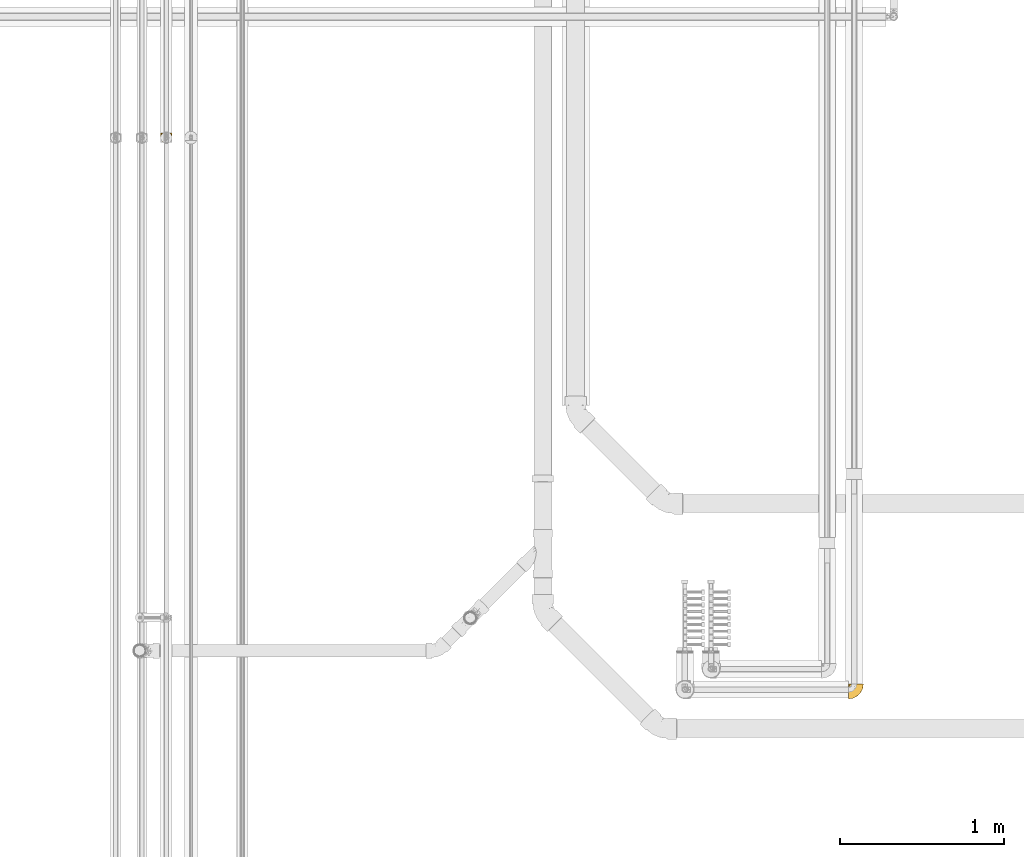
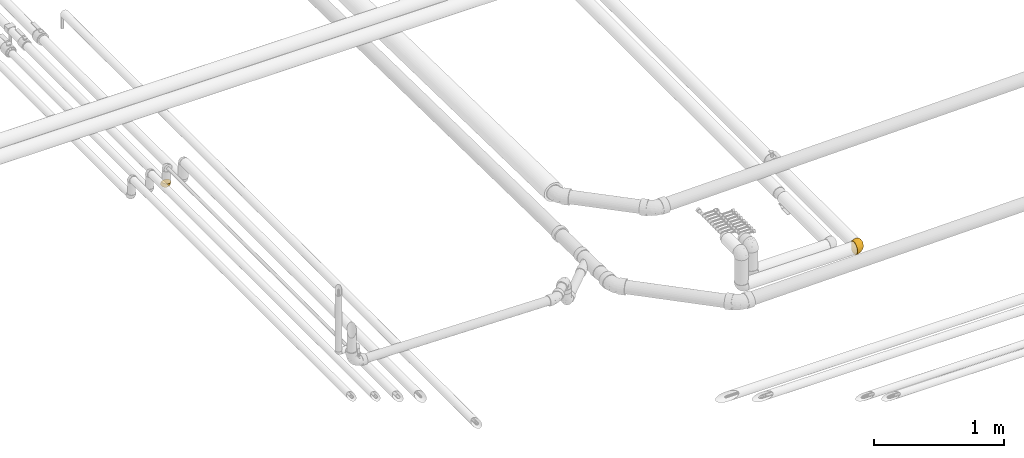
# One storey, part 18 of 83: 2 coverings.
"""IFC2X3 building model written with IfcOpenShell, lengths in millimetres."""

from ifc_helpers import new_model, entity, si_unit, converted_unit, derived_unit, direction, frame, origin_with_axes, place, context, subcontext, project, spatial, open_shell, surface_model, source, transform, mapped, element, save


model = new_model("IFC2X3")

# Units and contexts
model_context = context("Model", 3, precision=0.01, world=frame((0.0, 4.29681676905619e-09, 0.0)), true_north=direction((4.01073788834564e-13, 1.0)))
plan_context = context("Plan", 3, precision=0.01, world=frame((0.0, 4.29681676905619e-09, 0.0)), true_north=direction((4.01073788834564e-13, 1.0)))
body_context = subcontext(model_context, "Body", "Model", "MODEL_VIEW")
ifc_project = project(units=[converted_unit("PLANEANGLEUNIT", "DEGREE", entity("IfcPositiveLengthMeasure", 0.0174532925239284), si_unit("PLANEANGLEUNIT", "RADIAN"), dimensions=[0, 0, 0, 0, 0, 0, 0]), si_unit("AREAUNIT", "SQUARE_METRE"), si_unit("LENGTHUNIT", "METRE", prefix="MILLI"), si_unit("MASSUNIT", "GRAM", prefix="KILO"), si_unit("POWERUNIT", "WATT"), si_unit("PRESSUREUNIT", "PASCAL"), si_unit("FORCEUNIT", "NEWTON", prefix="KILO"), si_unit("ELECTRICVOLTAGEUNIT", "VOLT"), si_unit("ELECTRICCURRENTUNIT", "AMPERE"), si_unit("THERMODYNAMICTEMPERATUREUNIT", "DEGREE_CELSIUS"), si_unit("TIMEUNIT", "SECOND"), si_unit("VOLUMEUNIT", "CUBIC_METRE"), derived_unit("LINEARVELOCITYUNIT", [(si_unit("LENGTHUNIT", "METRE"), 1), (si_unit("TIMEUNIT", "SECOND"), -1)]), derived_unit("VOLUMETRICFLOWRATEUNIT", [(si_unit("VOLUMEUNIT", "CUBIC_METRE"), 1), (si_unit("TIMEUNIT", "SECOND"), -1)]), derived_unit("THERMALTRANSMITTANCEUNIT", [(si_unit("POWERUNIT", "WATT"), 1), (si_unit("THERMODYNAMICTEMPERATUREUNIT", "KELVIN"), -1), (si_unit("AREAUNIT", "SQUARE_METRE"), -1)]), derived_unit("SOUNDPRESSUREUNIT", [(si_unit("PRESSUREUNIT", "PASCAL"), 1)])], contexts=[model_context, plan_context])

# Site, building, storey
site_placement = place(None, frame((0.0, -4.29681676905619e-09, 0.0), z_axis=(0.0, 0.0, 1.0), x_axis=(1.0, 0.0, 0.0)))
site = spatial("IfcSite", under=ifc_project, at=site_placement, Name="ENGM", CompositionType="ELEMENT")
building_placement = place(site_placement, frame((0.0, 4.29681676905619e-09, 0.0), z_axis=(0.0, 0.0, 1.0), x_axis=(1.0, 0.0, 0.0)))
building = spatial("IfcBuilding", under=site, at=building_placement, Name="TI", CompositionType="ELEMENT")
storey_placement = place(building_placement, frame((0.0, 0.0, 204000.0), z_axis=(0.0, 0.0, 1.0), x_axis=(1.0, 0.0, 0.0)))
storey = spatial("IfcBuildingStorey", under=building, at=storey_placement, Name="Nivå D", CompositionType="ELEMENT", Elevation=204000.0)

# Coverings
shared_shape_1 = source(origin_with_axes(), body_context, "Body", "SurfaceModel", [
    surface_model("IfcShellBasedSurfaceModel", [(-33.34059, 33.8, 46.10873), (-23.05704, 33.8, 52.01906), (-11.775, 33.8, 55.6683), (44.48008, 33.8, -35.48425), (55.47253, 33.8, -12.66523), (51.26203, 33.8, -24.69442), (-23.07704, 33.8, -52.01019), (-33.34059, 33.8, -46.10873), (-11.7964, 33.8, -55.66377), (12.64674, 33.8, -55.47675), (24.67561, 33.8, -51.27108), (0.0, 33.8, -56.9), (-33.8, 23.06476, 52.01564), (-33.8, 33.34059, 46.10873), (-33.8, 11.78813, 55.66552), (-33.8, -14.7268, -54.96118), (-33.8, -28.45, -49.27684), (-33.8, -40.23438, -40.23438), (-33.8, -49.27684, -28.45), (-33.8, -54.96118, -14.7268), (-33.8, -40.23438, 40.23438), (-33.8, -28.45, 49.27684), (-33.8, -54.96118, 14.7268), (-33.8, -49.27684, 28.45), (-33.8, -56.9, 0.0), (-33.8, 33.34059, -46.10873), (-33.47515, 33.47515, 46.10873), (-33.47515, 33.47515, -46.10873), (-32.08364, 25.44579, -50.9801), (-33.67665, 33.39168, -46.10873), (-30.83312, 26.67841, -50.56853), (-15.87334, 20.68765, -55.70718), (-10.71417, 10.71417, -56.9), (-22.5985, 20.69411, -54.43708), (-25.35, 2.26417, -56.9), (-28.51435, 18.40378, -54.135), (-23.15334, 12.21937, -56.06086), (-33.43341, 33.5759, -46.10873), (-33.39168, 33.67665, -46.10873), (-18.4122, 28.52188, -54.13163), (-33.8, 11.78813, -55.66552), (-33.8, 23.06476, -52.01564), (-25.86292, 27.59402, -51.71796), (-10.594, 29.15837, -55.99022), (-2.26417, 25.35, -56.9), (-33.5759, 33.43341, -46.10873), (-9.88716, 23.89498, -56.34654), (-4.52834, 16.9, -56.9), (-26.53944, 21.15799, -53.5551), (-29.02753, 27.72284, -50.57484), (-16.9, 4.52834, -56.9), (-33.8, 0.0, -56.9), (-1.89548, 26.72596, -56.9), (-21.08164, -9.83471, -55.69449), (-12.19459, -6.31894, -55.67005), (1.29929, -23.83547, -45.86), (-3.44185, -39.07106, -34.63852), (-16.08681, -32.30654, -45.14181), (-12.53249, -17.54431, -52.56875), (-24.14956, -20.93038, -52.56875), (19.51212, -39.57784, 0.0), (-5.77216, -52.46082, 0.0), (2.43768, -47.9375, -12.04628), (27.50756, -27.50756, -20.95211), (9.13936, -40.31341, -23.42618), (12.63976, -31.02468, -33.56907), (29.0814, 21.55934, -48.18545), (17.10597, 20.64085, -53.71172), (-15.67837, -54.0783, -10.47602), (-20.00402, -43.92696, -34.63852), (-11.38936, -49.61057, -21.77469), (25.8449, -21.54003, -31.23005), (42.40332, -10.087, -17.51383), (18.75415, -18.3345, -40.2421), (10.4419, -13.49624, -47.73768), (21.60417, -5.46943, -45.54281), (9.23089, 7.63542, -54.43656), (24.82732, 7.97866, -48.18545), (37.87075, 15.27302, -40.2421), (35.46718, 33.8, -44.4937), (-0.20989, 3.79953, -55.7794), (50.92012, 11.89905, -18.79808), (30.72116, -7.8177, -37.28829), (41.22013, 0.75864, -30.27981), (46.66377, 18.13685, -30.27981), (18.39178, -38.38046, -13.50943), (32.12068, -27.27232, -9.7235), (52.46082, 5.77216, 0.0), (56.9, 33.8, 0.0), (39.57784, -19.51212, 0.0), (-26.72596, 1.89548, -56.9), (1.285, -6.94906, -53.27967), (24.84384, 7.9713, 48.17409), (29.09917, 21.55599, 48.17409), (17.12404, 20.63566, 53.70514), (-16.07985, -54.20588, 10.23371), (-2.14575, -46.559, 21.77469), (1.72334, -48.57904, 10.55822), (14.17314, -39.78008, 17.81974), (-19.63149, -51.39867, 21.77469), (31.54782, -1.01192, 40.22682), (30.88333, -13.90178, 32.6927), (41.23057, 0.75415, 30.26172), (18.76512, -18.34538, 40.22666), (20.72445, -26.00089, 31.88611), (51.27108, 33.8, 24.67561), (50.9267, 11.89822, 18.77928), (55.47675, 33.8, 12.64674), (-16.6221, -7.67112, 55.80919), (-16.9, 4.52834, 56.9), (-25.35, 2.26417, 56.9), (-13.80199, -42.5668, 34.63852), (-21.83958, -33.58531, 45.14181), (-19.37969, -19.87123, 52.56875), (24.69442, 33.8, 51.26203), (12.66523, 33.8, 55.47253), (7.60894, -34.46398, 33.43332), (-7.48103, -29.3755, 45.14181), (26.00634, -33.17128, 10.14462), (27.51051, -27.51051, 20.94155), (-25.39793, -9.93514, 55.87819), (44.4937, 33.8, 35.46718), (46.67489, 18.13455, 30.26172), (-33.8, -14.7268, 54.96118), (-1.12035, 1.70754, 55.61965), (-4.52834, 16.9, 56.9), (-10.71417, 10.71417, 56.9), (42.40865, -10.09182, 17.4921), (35.48425, 33.8, 44.48008), (37.8857, 15.26915, 40.22666), (9.23512, 7.61904, 54.43287), (0.0, 33.8, 56.9), (-1.89548, 26.72596, 56.9), (6.61304, -17.87206, 47.18516), (-9.78518, -15.45307, 52.88466), (14.61926, -5.8279, 49.09168), (-9.48758, -2.99227, 55.96008), (-33.8, 0.0, 56.9), (7.94789, -26.49594, 40.91874), (-1.31124, -9.39277, 53.17563), (-29.15757, 10.59376, 55.9903), (-23.89175, 9.87937, 56.34772), (-24.61782, 17.65103, 54.82579), (-29.75291, 25.81063, 51.18968), (-28.51435, 18.40378, 54.135), (-15.87334, 20.68765, 55.70718), (-25.86292, 27.59402, 51.71796), (-22.5985, 20.69411, 54.43708), (-26.85079, 30.69652, 50.51467), (-33.39168, 33.67665, 46.10873), (-33.43341, 33.5759, 46.10873), (-25.55723, 31.93363, 50.94173), (-18.39517, 28.5074, 54.13837), (-2.26417, 25.35, 56.9), (-33.67665, 33.39168, 46.10873), (-28.3466, 27.59544, 50.84629), (-33.5759, 33.43341, 46.10873)], [open_shell([[[0, 1, 2]], [[3, 4, 5]], [[6, 7, 8]], [[9, 7, 10]], [[11, 8, 7]], [[11, 7, 9]], [[12, 13, 14]], [[15, 16, 17]], [[17, 18, 19]], [[17, 19, 15]], [[20, 21, 22]], [[20, 22, 23]], [[19, 24, 22]], [[25, 13, 26]], [[27, 25, 26]], [[0, 7, 26]], [[27, 26, 7]], [[28, 29, 30]], [[31, 32, 33]], [[34, 35, 36]], [[37, 38, 39]], [[35, 40, 28]], [[25, 29, 28]], [[40, 41, 28]], [[42, 27, 37]], [[8, 43, 6]], [[37, 39, 42]], [[31, 33, 42]], [[6, 38, 7]], [[43, 11, 44]], [[29, 45, 30]], [[31, 46, 47]], [[6, 39, 38]], [[46, 43, 44]], [[36, 35, 48]], [[47, 46, 44]], [[42, 33, 49]], [[39, 46, 31]], [[39, 31, 42]], [[32, 50, 33]], [[31, 47, 32]], [[25, 28, 41]], [[30, 48, 35]], [[48, 49, 33]], [[28, 30, 35]], [[27, 49, 45]], [[49, 30, 45]], [[36, 33, 50]], [[49, 48, 30]], [[42, 49, 27]], [[33, 36, 48]], [[34, 51, 40]], [[34, 40, 35]], [[36, 50, 34]], [[43, 46, 39]], [[6, 43, 39]], [[43, 8, 11]], [[52, 11, 9]], [[53, 50, 54]], [[55, 56, 57]], [[58, 59, 53]], [[60, 61, 62]], [[63, 64, 65]], [[66, 67, 10]], [[59, 16, 15]], [[19, 68, 24]], [[16, 57, 17]], [[69, 18, 17]], [[16, 59, 57]], [[62, 70, 64]], [[18, 69, 70]], [[63, 71, 72]], [[73, 74, 75]], [[76, 47, 67]], [[67, 77, 76]], [[78, 77, 66]], [[78, 79, 3]], [[67, 47, 52]], [[67, 9, 10]], [[32, 80, 54]], [[81, 5, 4]], [[82, 78, 83]], [[84, 78, 3]], [[72, 83, 81]], [[60, 85, 86]], [[82, 83, 71]], [[18, 70, 19]], [[3, 5, 84]], [[4, 87, 81]], [[4, 88, 87]], [[83, 84, 81]], [[63, 65, 71]], [[72, 87, 89]], [[64, 70, 56]], [[10, 79, 66]], [[68, 70, 62]], [[52, 9, 67]], [[55, 57, 58]], [[69, 57, 56]], [[15, 51, 90]], [[77, 82, 75]], [[76, 91, 80]], [[81, 84, 5]], [[78, 84, 83]], [[78, 66, 79]], [[67, 66, 77]], [[87, 72, 81]], [[86, 72, 89]], [[91, 55, 58]], [[55, 73, 65]], [[54, 58, 53]], [[76, 77, 75]], [[65, 64, 56]], [[64, 85, 62]], [[64, 63, 85]], [[68, 62, 61]], [[24, 68, 61]], [[19, 70, 68]], [[86, 85, 63]], [[60, 62, 85]], [[72, 86, 63]], [[60, 86, 89]], [[55, 65, 56]], [[76, 80, 47]], [[65, 73, 71]], [[82, 71, 73]], [[72, 71, 83]], [[75, 82, 73]], [[78, 82, 77]], [[74, 73, 55]], [[75, 74, 76]], [[55, 91, 74]], [[76, 74, 91]], [[57, 69, 17]], [[70, 69, 56]], [[53, 15, 90]], [[57, 59, 58]], [[15, 53, 59]], [[50, 53, 90]], [[32, 54, 50]], [[91, 58, 54]], [[54, 80, 91]], [[47, 80, 32]], [[92, 93, 94]], [[24, 61, 95]], [[96, 97, 98]], [[95, 96, 99]], [[100, 101, 102]], [[23, 22, 99]], [[103, 104, 101]], [[105, 106, 107]], [[108, 109, 110]], [[87, 107, 106]], [[99, 111, 23]], [[96, 95, 97]], [[20, 112, 21]], [[21, 112, 113]], [[114, 115, 94]], [[116, 117, 111]], [[118, 119, 98]], [[113, 108, 120]], [[105, 121, 122]], [[21, 113, 123]], [[124, 125, 126]], [[106, 105, 122]], [[88, 107, 87]], [[127, 106, 102]], [[101, 127, 102]], [[121, 128, 129]], [[130, 92, 94]], [[102, 122, 129]], [[128, 114, 93]], [[102, 129, 100]], [[94, 125, 130]], [[20, 23, 111]], [[116, 96, 98]], [[93, 129, 128]], [[100, 129, 92]], [[115, 131, 132]], [[125, 94, 132]], [[106, 127, 87]], [[117, 133, 134]], [[115, 132, 94]], [[103, 135, 133]], [[135, 92, 130]], [[116, 111, 96]], [[112, 111, 117]], [[126, 136, 124]], [[135, 103, 100]], [[108, 136, 109]], [[123, 120, 137]], [[138, 103, 133]], [[94, 93, 114]], [[129, 93, 92]], [[129, 122, 121]], [[106, 122, 102]], [[118, 127, 119]], [[87, 127, 89]], [[124, 135, 130]], [[136, 126, 109]], [[133, 135, 139]], [[120, 108, 110]], [[134, 108, 113]], [[137, 120, 110]], [[113, 120, 123]], [[135, 100, 92]], [[101, 100, 103]], [[103, 138, 104]], [[127, 101, 119]], [[98, 104, 116]], [[119, 101, 104]], [[134, 133, 139]], [[138, 117, 116]], [[111, 112, 20]], [[113, 112, 117]], [[117, 134, 113]], [[136, 134, 139]], [[134, 136, 108]], [[136, 139, 124]], [[135, 124, 139]], [[125, 124, 130]], [[95, 99, 22]], [[111, 99, 96]], [[24, 95, 22]], [[95, 61, 97]], [[61, 60, 97]], [[118, 98, 97]], [[118, 97, 60]], [[98, 119, 104]], [[60, 89, 118]], [[127, 118, 89]], [[117, 138, 133]], [[104, 138, 116]], [[110, 140, 137]], [[109, 141, 110]], [[142, 143, 144]], [[145, 146, 147]], [[148, 149, 150]], [[14, 140, 12]], [[2, 1, 151]], [[145, 152, 146]], [[152, 153, 2]], [[154, 13, 12]], [[153, 131, 2]], [[148, 151, 149]], [[26, 146, 150]], [[141, 140, 110]], [[141, 142, 144]], [[144, 154, 12]], [[143, 154, 144]], [[155, 156, 143]], [[147, 126, 145]], [[0, 149, 151]], [[148, 146, 152]], [[146, 148, 150]], [[152, 145, 125]], [[126, 147, 109]], [[126, 125, 145]], [[151, 148, 152]], [[2, 151, 152]], [[0, 151, 1]], [[152, 125, 153]], [[142, 109, 147]], [[140, 141, 144]], [[12, 140, 144]], [[140, 14, 137]], [[109, 142, 141]], [[155, 146, 26]], [[147, 146, 155]], [[147, 143, 142]], [[154, 143, 156]], [[156, 155, 26]], [[143, 147, 155]], [[14, 25, 41]], [[14, 21, 137]], [[14, 13, 25]], [[21, 123, 137]], [[121, 105, 107]], [[7, 131, 128]], [[115, 114, 128]], [[128, 121, 7]], [[0, 2, 7]], [[19, 22, 41]], [[51, 15, 19]], [[7, 2, 131]], [[121, 107, 88]], [[88, 7, 121]], [[131, 115, 128]], [[10, 88, 4]], [[3, 79, 4]], [[10, 4, 79]], [[10, 7, 88]], [[41, 40, 19]], [[41, 22, 14]], [[51, 19, 40]], [[14, 22, 21]]])]),
])
covering_1_placement = place(storey_placement, frame((604084.1909, 693235.60884, 6040.4963), z_axis=(1.29999999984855e-05, 7.999999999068e-06, 0.9999999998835), x_axis=(0.9999999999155, 7.999999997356e-12, -1.29999999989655e-05)))
element("IfcCovering", 1, at=covering_1_placement, inside=storey, Name="BI11T - Rørskål m/Al.folie - varme 60-25", PredefinedType="INSULATION", context=body_context, shape_type="MappedRepresentation", body=[
    mapped(shared_shape_1, transform((0.0, 0.0, 0.0), scale=1.0)),
])
shared_shape_2 = source(origin_with_axes(), body_context, "Body", "SurfaceModel", [
    surface_model("IfcShellBasedSurfaceModel", [(-27.78864, 28.0, -21.27895), (-15.50278, 28.00002, -31.37937), (-22.23183, 28.0, -27.03234), (-7.96058, 28.00003, -34.08269), (-4e-05, 28.00004, -35.0), (-28.00004, -30.31089, -17.5), (-28.00004, -17.5, -30.31089), (-28.00004, -24.74874, -24.74874), (-28.00004, -24.74874, 24.74874), (-28.00004, -33.8074, 9.05867), (-28.00004, -30.31089, 17.5), (-27.78864, 28.0, 21.27895), (-27.85056, 27.85052, 21.27895), (-27.85056, 27.85052, -21.27895), (-3.75131, 14.00002, -35.0), (-14.9266, 14.92658, -33.68284), (-21.84454, 21.41301, -29.40386), (-14.00003, 3.75129, -35.0), (-18.1146, -5.91539, -34.22455), (-12.15927, -10.24299, -32.33579), (-20.81205, -12.76505, -32.33578), (-1.45901, 22.55504, -35.0), (7.78375, 28.00005, -34.12349), (-9.67075, -31.63978, -6.49098), (-28.00004, -33.8074, -9.05867), (-12.30701, -30.25921, -13.39392), (-18.19595, -26.89881, -21.30665), (-15.23853, -19.62657, -27.76737), (-8.87567, 8.87566, -35.0), (-1.95198, 4.75658, -34.31096), (-11.29228, -3.02502, -34.24346), (7.94694, -20.85267, -12.60125), (11.62818, -20.28706, -6.089), (1.45255, -26.68244, -7.84365), (-21.00003, 1.87565, -35.0), (-6.45577, -23.43777, -21.30665), (-15.49778, -32.51315, 0.0), (-1.71702, -2.5207, -32.7758), (4.64615, 8.16416, -33.48076), (-3.89096, -30.2044, 0.0), (-28.00004, -35.0, 0.0), (16.49049, -14.16981, -10.7752), (9.49922, 2.95497, -30.54183), (16.54772, -16.5477, 0.0), (-9.67075, -31.6398, 6.49085), (-1.81305, -26.10441, 13.92972), (-12.3045, -30.25854, 13.39392), (-6.4492, -23.43502, 21.30665), (-18.19207, -26.89812, 21.30665), (-15.23853, -19.62657, 27.76737), (-28.00004, -17.5, 30.31089), (11.6286, -20.28757, 6.08525), (16.50328, -14.15991, 10.76754), (7.95761, -20.84723, 12.5962), (13.0376, -12.79978, 18.24555), (3.80693, -17.37912, 21.75673), (7.79209, 28.00005, 34.12159), (-1.45901, 22.55504, 35.0), (10.31298, 18.12753, 33.03425), (-12.15927, -10.24299, 32.33579), (-20.81205, -12.76505, 32.33578), (-4e-05, 28.00004, 35.0), (-3.75131, 14.00002, 35.0), (4.64897, 8.15231, 33.47816), (-2.57144, -13.58541, 28.19032), (17.83809, -3.44946, 21.53635), (9.60712, -8.99498, 24.74402), (1.45331, -26.68201, 7.84375), (-1.95374, 4.75221, 34.31064), (-8.87567, 8.87566, 35.0), (-1.71972, -2.52553, 32.77509), (20.74063, -5.68002, 15.77137), (-11.29228, -3.02502, 34.24346), (-14.00003, 3.75129, 35.0), (9.52497, 2.9536, 30.5294), (-18.1146, -5.91539, 34.22455), (-14.92721, 14.92719, 33.68259), (-7.94637, 28.00003, 34.08601), (-21.40545, 21.84508, 29.4072), (-15.4888, 28.00002, 31.38627), (-22.22056, 28.0, 27.0416), (-2.58382, -13.58879, -28.19294), (9.58628, -9.0027, -24.75346), (3.79411, -17.38159, -21.76346), (15.19142, 28.00004, 31.53125), (21.82745, 28.00005, 27.35984), (27.36814, 28.00006, 21.81705), (31.53632, 28.00006, 15.18087), (34.12346, 28.00006, 7.78379), (34.12156, 28.00006, -7.79212), (21.81702, 28.00005, -27.36817), (31.53122, 28.00006, -15.19145), (15.18084, 28.00004, -31.53635), (27.35981, 28.00006, -21.82748), (34.99997, 28.00006, 0.0), (-28.00003, 27.7886, 21.27895), (-28.00003, 27.7886, -21.27895), (-28.00003, 22.224, -27.03875), (-28.00003, 15.49576, -31.38282), (-28.00003, 7.95617, -34.08371), (-28.00003, 0.0, -35.0), (-28.00003, 15.49576, 31.38282), (-28.00003, 22.224, 27.03875), (-28.00003, 0.0, 35.0), (-28.00003, 7.95617, 34.08371), (-28.00003, -9.05867, -33.8074), (-28.00003, -9.05867, 33.8074), (23.72213, -5.6255, -9.48024), (31.10249, 12.76611, -11.56454), (30.2044, 3.89099, 0.0), (14.69525, 9.28735, -29.63858), (17.76559, 19.1367, -29.63858), (23.07495, 14.8365, -24.75346), (13.02316, -12.80642, -18.25465), (17.82285, -3.45507, -21.54838), (21.37801, -4.69318, -15.8208), (32.51313, 15.49781, 0.0), (10.30328, 18.12824, -33.0376), (28.5806, 17.04245, -18.62661), (5.65652, -4.27613, -29.62872), (20.70086, 5.391, -23.76693), (24.78458, 4.86516, -18.62661), (-1.81998, -26.11013, -13.92482), (23.37606, -6.32835, 0.0), (14.04282, 0.27528, -26.92531), (6.32838, -23.37606, 0.0), (5.67004, -4.26723, 29.62646), (14.70826, 9.29058, 29.6319), (17.77691, 19.13928, 29.6319), (-21.00002, 1.87565, 35.0), (23.73556, -5.60686, 9.4763), (31.10719, 12.77093, 11.55496), (24.79491, 4.87209, 18.61598), (28.58816, 17.04636, 18.61598), (23.08501, 14.8377, 24.74402), (14.06464, 0.28342, 26.91389), (20.71377, 5.39425, 23.75575)], [open_shell([[[0, 1, 2]], [[1, 0, 3]], [[0, 4, 3]], [[5, 6, 7]], [[8, 9, 10]], [[11, 0, 12]], [[13, 12, 0]], [[14, 15, 3]], [[13, 0, 2]], [[15, 16, 1]], [[15, 14, 17]], [[1, 3, 15]], [[3, 4, 14]], [[1, 16, 2]], [[13, 2, 16]], [[18, 19, 20]], [[21, 4, 22]], [[23, 24, 25]], [[26, 5, 7]], [[27, 7, 6]], [[5, 25, 24]], [[5, 26, 25]], [[27, 6, 20]], [[28, 29, 30]], [[31, 32, 33]], [[34, 30, 18]], [[26, 27, 35]], [[24, 23, 36]], [[30, 29, 37]], [[38, 37, 29]], [[30, 19, 18]], [[36, 23, 39]], [[36, 40, 24]], [[23, 33, 39]], [[41, 32, 31]], [[42, 37, 38]], [[38, 29, 14]], [[27, 26, 7]], [[25, 26, 35]], [[27, 20, 19]], [[30, 34, 17]], [[28, 30, 17]], [[37, 19, 30]], [[43, 32, 41]], [[14, 29, 28]], [[39, 44, 36]], [[44, 45, 46]], [[46, 47, 48]], [[49, 50, 8]], [[51, 52, 53]], [[54, 55, 53]], [[56, 57, 58]], [[49, 59, 60]], [[56, 61, 57]], [[10, 9, 46]], [[48, 49, 8]], [[10, 48, 8]], [[58, 62, 63]], [[49, 64, 59]], [[65, 66, 54]], [[62, 58, 57]], [[47, 55, 64]], [[9, 36, 44]], [[44, 67, 45]], [[53, 52, 54]], [[68, 62, 69]], [[70, 59, 64]], [[47, 64, 49]], [[63, 68, 70]], [[9, 40, 36]], [[9, 44, 46]], [[52, 51, 43]], [[67, 51, 53]], [[67, 53, 45]], [[67, 44, 39]], [[55, 45, 53]], [[47, 46, 45]], [[62, 68, 63]], [[55, 54, 66]], [[71, 65, 54]], [[64, 55, 66]], [[55, 47, 45]], [[52, 71, 54]], [[72, 69, 73]], [[70, 74, 63]], [[46, 48, 10]], [[49, 48, 47]], [[49, 60, 50]], [[75, 60, 59]], [[75, 59, 72]], [[59, 70, 72]], [[72, 70, 68]], [[72, 68, 69]], [[62, 76, 73]], [[62, 61, 77]], [[78, 76, 79]], [[80, 11, 12]], [[12, 78, 80]], [[77, 79, 76]], [[62, 77, 76]], [[79, 80, 78]], [[80, 0, 11]], [[35, 27, 81]], [[81, 27, 19]], [[37, 81, 19]], [[81, 82, 83]], [[81, 83, 35]], [[84, 85, 86]], [[86, 87, 88]], [[0, 61, 84]], [[86, 0, 84]], [[77, 61, 80]], [[61, 56, 84]], [[77, 80, 79]], [[61, 0, 80]], [[0, 86, 88]], [[0, 88, 89]], [[90, 89, 91]], [[90, 92, 89]], [[90, 91, 93]], [[0, 89, 92]], [[0, 92, 4]], [[92, 22, 4]], [[89, 88, 94]], [[95, 96, 97]], [[98, 99, 100]], [[101, 97, 98]], [[101, 98, 100]], [[102, 95, 101]], [[101, 103, 104]], [[101, 95, 97]], [[100, 103, 101]], [[100, 105, 103]], [[103, 6, 106]], [[5, 24, 6]], [[106, 6, 24]], [[106, 8, 50]], [[106, 24, 8]], [[8, 24, 9]], [[40, 9, 24]], [[6, 103, 105]], [[96, 95, 12]], [[13, 96, 12]], [[98, 16, 15]], [[100, 99, 17]], [[17, 99, 15]], [[98, 97, 16]], [[97, 96, 13]], [[99, 98, 15]], [[13, 16, 97]], [[107, 108, 109]], [[100, 34, 18]], [[20, 6, 105]], [[110, 111, 112]], [[113, 114, 115]], [[108, 107, 115]], [[108, 89, 116]], [[38, 14, 117]], [[21, 22, 117]], [[93, 91, 118]], [[112, 90, 93]], [[117, 14, 21]], [[117, 22, 92]], [[111, 117, 92]], [[119, 81, 37]], [[117, 110, 38]], [[120, 121, 114]], [[120, 112, 121]], [[113, 115, 41]], [[23, 122, 33]], [[108, 91, 89]], [[109, 108, 116]], [[121, 118, 108]], [[118, 112, 93]], [[90, 111, 92]], [[43, 107, 123]], [[122, 31, 33]], [[113, 83, 82]], [[110, 124, 42]], [[89, 94, 116]], [[108, 118, 91]], [[112, 118, 121]], [[112, 111, 90]], [[117, 111, 110]], [[124, 119, 42]], [[32, 43, 125]], [[125, 39, 33]], [[125, 33, 32]], [[122, 23, 25]], [[25, 35, 122]], [[83, 122, 35]], [[113, 41, 31]], [[41, 107, 43]], [[31, 122, 83]], [[114, 113, 82]], [[31, 83, 113]], [[124, 114, 82]], [[115, 114, 121]], [[119, 124, 82]], [[120, 110, 112]], [[81, 119, 82]], [[108, 115, 121]], [[115, 107, 41]], [[114, 124, 120]], [[110, 120, 124]], [[37, 42, 119]], [[38, 110, 42]], [[105, 100, 18]], [[105, 18, 20]], [[107, 109, 123]], [[70, 126, 74]], [[127, 128, 58]], [[129, 75, 72]], [[106, 60, 75]], [[60, 106, 50]], [[84, 56, 58]], [[130, 109, 131]], [[132, 133, 134]], [[85, 134, 86]], [[131, 87, 133]], [[131, 116, 88]], [[85, 84, 128]], [[134, 133, 86]], [[72, 73, 129]], [[66, 65, 135]], [[127, 58, 63]], [[87, 131, 88]], [[128, 134, 85]], [[130, 131, 132]], [[127, 135, 136]], [[87, 86, 133]], [[130, 43, 123]], [[106, 75, 103]], [[39, 125, 67]], [[116, 131, 109]], [[116, 94, 88]], [[131, 133, 132]], [[58, 128, 84]], [[134, 128, 127]], [[135, 126, 66]], [[126, 64, 66]], [[51, 67, 125]], [[43, 51, 125]], [[65, 71, 132]], [[52, 130, 71]], [[132, 134, 136]], [[136, 65, 132]], [[74, 126, 135]], [[135, 127, 74]], [[64, 126, 70]], [[132, 71, 130]], [[127, 136, 134]], [[135, 65, 136]], [[127, 63, 74]], [[75, 129, 103]], [[43, 130, 52]], [[123, 109, 130]], [[104, 103, 73]], [[104, 76, 101]], [[101, 76, 78]], [[95, 102, 12]], [[104, 73, 76]], [[78, 12, 102]], [[101, 78, 102]]])]),
])
covering_2_placement = place(storey_placement, frame((599881.50429, 696607.72886, 6052.18208), z_axis=(1.0, 0.0, 0.0), x_axis=(0.0, -1.09999999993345e-05, -0.9999999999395)))
element("IfcCovering", 2, at=covering_2_placement, inside=storey, Name="BI15T - Cellegummi KV 15mm", PredefinedType="INSULATION", context=body_context, shape_type="MappedRepresentation", body=[
    mapped(shared_shape_2, transform((0.0, 0.0, 0.0), scale=1.0)),
])

save(model, "model.ifc")
